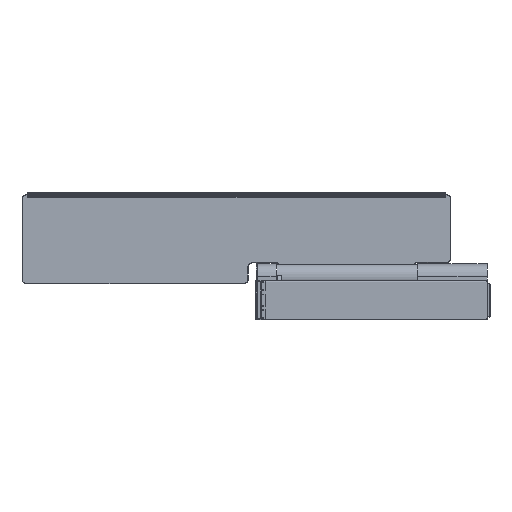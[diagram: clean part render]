
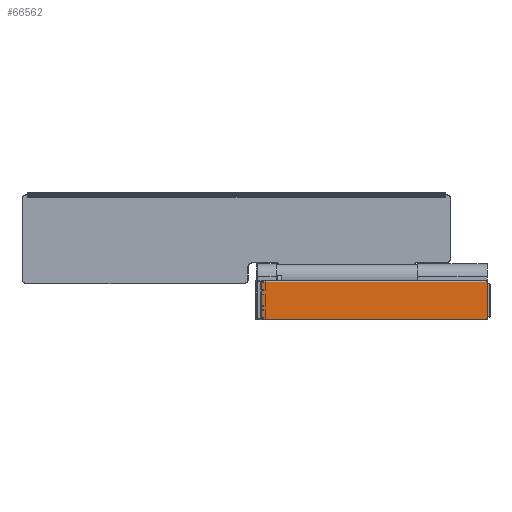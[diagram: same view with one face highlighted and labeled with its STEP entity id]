
A CAD part, left-side view. The second image highlights one B-rep face of the part: STEP entity #66562.
In plain terms, the highlighted planar face has unit normal (-1, 0, 0).
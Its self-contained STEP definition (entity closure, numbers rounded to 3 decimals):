
#231 = DIRECTION ( 'NONE',  ( 0., 0., 1. ) ) ;
#449 = PLANE ( 'NONE',  #35759 ) ;
#1093 = CARTESIAN_POINT ( 'NONE',  ( 0., 3., -70.999 ) ) ;
#2844 = EDGE_CURVE ( 'NONE', #61897, #4716, #65652, .T. ) ;
#4670 = ORIENTED_EDGE ( 'NONE', *, *, #2844, .F. ) ;
#4716 = VERTEX_POINT ( 'NONE', #51898 ) ;
#6926 = VECTOR ( 'NONE', #18927, 1000. ) ;
#8217 = CARTESIAN_POINT ( 'NONE',  ( 0., 3.001, -74. ) ) ;
#11252 = ORIENTED_EDGE ( 'NONE', *, *, #14816, .F. ) ;
#11650 = VERTEX_POINT ( 'NONE', #19018 ) ;
#12888 = CARTESIAN_POINT ( 'NONE',  ( 0., 870., 71. ) ) ;
#13177 = LINE ( 'NONE', #49667, #6926 ) ;
#13267 = ORIENTED_EDGE ( 'NONE', *, *, #39632, .F. ) ;
#14287 = DIRECTION ( 'NONE',  ( 0., 0., -1. ) ) ;
#14816 = EDGE_CURVE ( 'NONE', #4716, #56374, #13177, .T. ) ;
#15231 = DIRECTION ( 'NONE',  ( 0., 0., 1. ) ) ;
#15992 = DIRECTION ( 'NONE',  ( 0., 0., -1. ) ) ;
#17124 = ORIENTED_EDGE ( 'NONE', *, *, #40156, .T. ) ;
#17228 = VECTOR ( 'NONE', #231, 1000. ) ;
#18765 = CARTESIAN_POINT ( 'NONE',  ( 0., 3., 73.585 ) ) ;
#18855 = EDGE_CURVE ( 'NONE', #44094, #45563, #59259, .T. ) ;
#18927 = DIRECTION ( 'NONE',  ( 0., 1., 0. ) ) ;
#19018 = CARTESIAN_POINT ( 'NONE',  ( 0., 3., -70.999 ) ) ;
#20691 = LINE ( 'NONE', #41319, #59261 ) ;
#21082 = CARTESIAN_POINT ( 'NONE',  ( 0., 870., -74. ) ) ;
#25026 = VECTOR ( 'NONE', #15231, 1000. ) ;
#26840 = VECTOR ( 'NONE', #38364, 1000. ) ;
#27532 = EDGE_CURVE ( 'NONE', #56374, #27944, #61516, .T. ) ;
#27944 = VERTEX_POINT ( 'NONE', #45585 ) ;
#28060 = CARTESIAN_POINT ( 'NONE',  ( 0., 870., -71. ) ) ;
#28666 = ORIENTED_EDGE ( 'NONE', *, *, #18855, .T. ) ;
#33318 = CARTESIAN_POINT ( 'NONE',  ( 0., 3., 70.999 ) ) ;
#35305 = CARTESIAN_POINT ( 'NONE',  ( 0., 3., 71. ) ) ;
#35759 = AXIS2_PLACEMENT_3D ( 'NONE', #21082, #51469, #15992 ) ;
#36760 = LINE ( 'NONE', #57315, #17228 ) ;
#36998 = DIRECTION ( 'NONE',  ( 0., 0., -1. ) ) ;
#37046 = ORIENTED_EDGE ( 'NONE', *, *, #27532, .F. ) ;
#38024 = CARTESIAN_POINT ( 'NONE',  ( 0., 870., 71. ) ) ;
#38364 = DIRECTION ( 'NONE',  ( 0., 1., 0. ) ) ;
#38611 = LINE ( 'NONE', #12888, #49310 ) ;
#39632 = EDGE_CURVE ( 'NONE', #11650, #61897, #20691, .T. ) ;
#40156 = EDGE_CURVE ( 'NONE', #45563, #65924, #36760, .T. ) ;
#41319 = CARTESIAN_POINT ( 'NONE',  ( 0., 870., -70.999 ) ) ;
#41429 = EDGE_LOOP ( 'NONE', ( #4670, #13267, #47065, #28666, #17124, #43211, #37046, #11252 ) ) ;
#43211 = ORIENTED_EDGE ( 'NONE', *, *, #61071, .F. ) ;
#43411 = VECTOR ( 'NONE', #36998, 1000. ) ;
#44094 = VERTEX_POINT ( 'NONE', #33318 ) ;
#44332 = DIRECTION ( 'NONE',  ( 0., -1., 0. ) ) ;
#45563 = VERTEX_POINT ( 'NONE', #56933 ) ;
#45585 = CARTESIAN_POINT ( 'NONE',  ( 0., 870., 71. ) ) ;
#46114 = LINE ( 'NONE', #18765, #43411 ) ;
#47065 = ORIENTED_EDGE ( 'NONE', *, *, #56906, .F. ) ;
#49310 = VECTOR ( 'NONE', #44332, 1000. ) ;
#49667 = CARTESIAN_POINT ( 'NONE',  ( 0., 1.5, -71. ) ) ;
#51469 = DIRECTION ( 'NONE',  ( 1., 0., 0. ) ) ;
#51898 = CARTESIAN_POINT ( 'NONE',  ( 0., 3., -71. ) ) ;
#52480 = FACE_OUTER_BOUND ( 'NONE', #41429, .T. ) ;
#54074 = DIRECTION ( 'NONE',  ( 0., 1., 0. ) ) ;
#56374 = VERTEX_POINT ( 'NONE', #28060 ) ;
#56906 = EDGE_CURVE ( 'NONE', #44094, #11650, #46114, .T. ) ;
#56933 = CARTESIAN_POINT ( 'NONE',  ( 0., 3., 70.999 ) ) ;
#57315 = CARTESIAN_POINT ( 'NONE',  ( 0., 3., -74. ) ) ;
#59259 = LINE ( 'NONE', #38024, #26840 ) ;
#59261 = VECTOR ( 'NONE', #54074, 1000. ) ;
#60846 = CARTESIAN_POINT ( 'NONE',  ( 0., 870., -74. ) ) ;
#61071 = EDGE_CURVE ( 'NONE', #27944, #65924, #38611, .T. ) ;
#61516 = LINE ( 'NONE', #60846, #25026 ) ;
#61897 = VERTEX_POINT ( 'NONE', #1093 ) ;
#62246 = VECTOR ( 'NONE', #14287, 1000. ) ;
#65652 = LINE ( 'NONE', #8217, #62246 ) ;
#65924 = VERTEX_POINT ( 'NONE', #35305 ) ;
#66562 = ADVANCED_FACE ( 'NONE', ( #52480 ), #449, .F. ) ;
